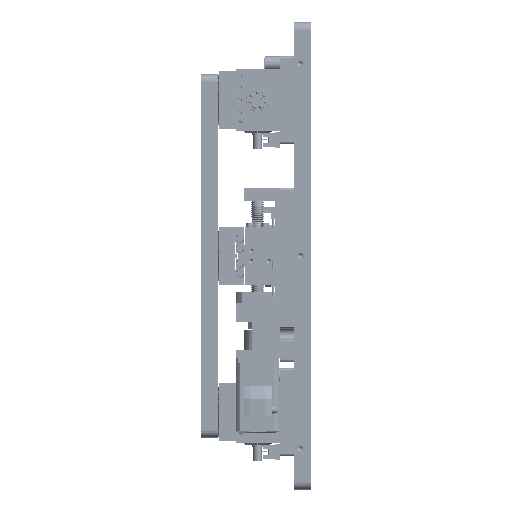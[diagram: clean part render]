
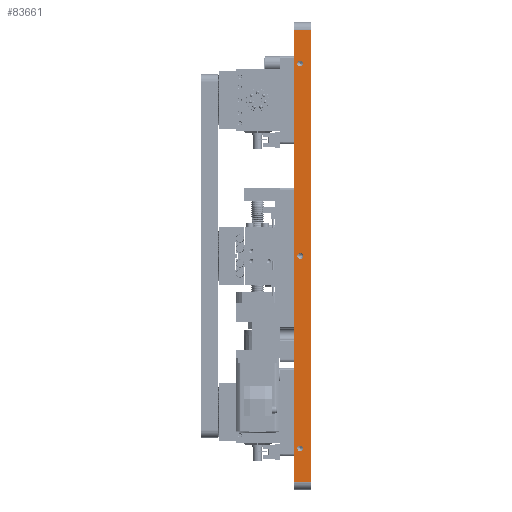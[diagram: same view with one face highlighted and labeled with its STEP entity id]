
A CAD part, left-side view. The second image highlights one B-rep face of the part: STEP entity #83661.
In plain terms, the highlighted planar face has unit normal (1, 0, 0).
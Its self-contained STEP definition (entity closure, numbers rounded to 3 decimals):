
#2578 = ORIENTED_EDGE ( 'NONE', *, *, #196876, .T. ) ;
#3567 = EDGE_LOOP ( 'NONE', ( #92168, #82711, #140599, #146072 ) ) ;
#9803 = VERTEX_POINT ( 'NONE', #264123 ) ;
#9864 = DIRECTION ( 'NONE',  ( 0., -1., 0. ) ) ;
#11326 = VERTEX_POINT ( 'NONE', #142925 ) ;
#13846 = CARTESIAN_POINT ( 'NONE',  ( -225., 16., 217. ) ) ;
#18416 = CARTESIAN_POINT ( 'NONE',  ( -225., 10., 185. ) ) ;
#22432 = DIRECTION ( 'NONE',  ( 0., -1., 0. ) ) ;
#28668 = DIRECTION ( 'NONE',  ( 0., 1., 0. ) ) ;
#29504 = CIRCLE ( 'NONE', #64618, 2.75 ) ;
#30323 = VERTEX_POINT ( 'NONE', #198304 ) ;
#30969 = DIRECTION ( 'NONE',  ( -1., 0., 0. ) ) ;
#31012 = AXIS2_PLACEMENT_3D ( 'NONE', #221004, #156450, #200425 ) ;
#35564 = LINE ( 'NONE', #142782, #54693 ) ;
#39070 = DIRECTION ( 'NONE',  ( -1., 0., 0. ) ) ;
#41155 = EDGE_CURVE ( 'NONE', #11326, #9803, #127709, .T. ) ;
#45826 = CARTESIAN_POINT ( 'NONE',  ( -225., 16., -217. ) ) ;
#51633 = CARTESIAN_POINT ( 'NONE',  ( -225., 10., -185. ) ) ;
#52117 = VERTEX_POINT ( 'NONE', #74495 ) ;
#54693 = VECTOR ( 'NONE', #138700, 1000. ) ;
#54915 = CARTESIAN_POINT ( 'NONE',  ( -225., 10., 0. ) ) ;
#64565 = CIRCLE ( 'NONE', #191973, 2.75 ) ;
#64618 = AXIS2_PLACEMENT_3D ( 'NONE', #114347, #99232, #9864 ) ;
#68161 = EDGE_LOOP ( 'NONE', ( #198285, #2578 ) ) ;
#68374 = CIRCLE ( 'NONE', #156117, 2.75 ) ;
#71638 = VERTEX_POINT ( 'NONE', #152616 ) ;
#74495 = CARTESIAN_POINT ( 'NONE',  ( -225., 12.75, 0. ) ) ;
#76797 = CARTESIAN_POINT ( 'NONE',  ( -225., 16., -217. ) ) ;
#80481 = AXIS2_PLACEMENT_3D ( 'NONE', #51633, #30969, #260493 ) ;
#82341 = EDGE_CURVE ( 'NONE', #52117, #30323, #29504, .T. ) ;
#82711 = ORIENTED_EDGE ( 'NONE', *, *, #84779, .F. ) ;
#83661 = ADVANCED_FACE ( 'NONE', ( #113945, #205962, #265072, #140046 ), #269097, .T. ) ;
#84779 = EDGE_CURVE ( 'NONE', #11326, #231029, #35564, .T. ) ;
#85936 = EDGE_CURVE ( 'NONE', #30323, #52117, #68374, .T. ) ;
#91308 = VECTOR ( 'NONE', #28668, 1000. ) ;
#91894 = CARTESIAN_POINT ( 'NONE',  ( -225., 16., -217. ) ) ;
#92168 = ORIENTED_EDGE ( 'NONE', *, *, #218970, .T. ) ;
#99232 = DIRECTION ( 'NONE',  ( -1., 0., 0. ) ) ;
#108044 = ORIENTED_EDGE ( 'NONE', *, *, #158134, .T. ) ;
#113945 = FACE_OUTER_BOUND ( 'NONE', #3567, .T. ) ;
#114347 = CARTESIAN_POINT ( 'NONE',  ( -225., 10., 0. ) ) ;
#115593 = LINE ( 'NONE', #13846, #147514 ) ;
#126983 = DIRECTION ( 'NONE',  ( 0., -1., 0. ) ) ;
#127709 = LINE ( 'NONE', #91894, #91308 ) ;
#129679 = DIRECTION ( 'NONE',  ( 0., 0., 1. ) ) ;
#138258 = AXIS2_PLACEMENT_3D ( 'NONE', #18416, #39070, #126983 ) ;
#138663 = DIRECTION ( 'NONE',  ( 0., 0., -1. ) ) ;
#138700 = DIRECTION ( 'NONE',  ( 0., 0., 1. ) ) ;
#140046 = FACE_BOUND ( 'NONE', #68161, .T. ) ;
#140599 = ORIENTED_EDGE ( 'NONE', *, *, #41155, .T. ) ;
#142782 = CARTESIAN_POINT ( 'NONE',  ( -225., 0., 217. ) ) ;
#142925 = CARTESIAN_POINT ( 'NONE',  ( -225., 0., -217. ) ) ;
#146072 = ORIENTED_EDGE ( 'NONE', *, *, #164018, .T. ) ;
#147163 = CARTESIAN_POINT ( 'NONE',  ( -225., 12.75, -185. ) ) ;
#147514 = VECTOR ( 'NONE', #202212, 1000. ) ;
#152532 = CARTESIAN_POINT ( 'NONE',  ( -225., 16., 217. ) ) ;
#152616 = CARTESIAN_POINT ( 'NONE',  ( -225., 7.25, 185. ) ) ;
#153215 = VERTEX_POINT ( 'NONE', #170559 ) ;
#156117 = AXIS2_PLACEMENT_3D ( 'NONE', #54915, #184103, #247247 ) ;
#156450 = DIRECTION ( 'NONE',  ( -1., 0., 0. ) ) ;
#158134 = EDGE_CURVE ( 'NONE', #174016, #210227, #199029, .T. ) ;
#160255 = CIRCLE ( 'NONE', #138258, 2.75 ) ;
#164018 = EDGE_CURVE ( 'NONE', #9803, #193057, #234120, .T. ) ;
#166029 = EDGE_CURVE ( 'NONE', #71638, #153215, #160255, .T. ) ;
#166092 = ORIENTED_EDGE ( 'NONE', *, *, #231911, .T. ) ;
#168170 = DIRECTION ( 'NONE',  ( -1., 0., 0. ) ) ;
#170559 = CARTESIAN_POINT ( 'NONE',  ( -225., 12.75, 185. ) ) ;
#174016 = VERTEX_POINT ( 'NONE', #147163 ) ;
#184103 = DIRECTION ( 'NONE',  ( -1., 0., 0. ) ) ;
#191973 = AXIS2_PLACEMENT_3D ( 'NONE', #232730, #168170, #22432 ) ;
#193057 = VERTEX_POINT ( 'NONE', #152532 ) ;
#195170 = EDGE_LOOP ( 'NONE', ( #248064, #233996 ) ) ;
#196876 = EDGE_CURVE ( 'NONE', #153215, #71638, #232888, .T. ) ;
#198285 = ORIENTED_EDGE ( 'NONE', *, *, #166029, .T. ) ;
#198304 = CARTESIAN_POINT ( 'NONE',  ( -225., 7.25, 0. ) ) ;
#199029 = CIRCLE ( 'NONE', #80481, 2.75 ) ;
#200425 = DIRECTION ( 'NONE',  ( 0., -1., 0. ) ) ;
#202212 = DIRECTION ( 'NONE',  ( 0., -1., 0. ) ) ;
#204786 = CARTESIAN_POINT ( 'NONE',  ( -225., 0., 217. ) ) ;
#205962 = FACE_BOUND ( 'NONE', #260052, .T. ) ;
#210227 = VERTEX_POINT ( 'NONE', #256642 ) ;
#218970 = EDGE_CURVE ( 'NONE', #193057, #231029, #115593, .T. ) ;
#221004 = CARTESIAN_POINT ( 'NONE',  ( -225., 10., 185. ) ) ;
#226568 = DIRECTION ( 'NONE',  ( 1., 0., 0. ) ) ;
#229642 = AXIS2_PLACEMENT_3D ( 'NONE', #76797, #226568, #138663 ) ;
#231029 = VERTEX_POINT ( 'NONE', #204786 ) ;
#231911 = EDGE_CURVE ( 'NONE', #210227, #174016, #64565, .T. ) ;
#232730 = CARTESIAN_POINT ( 'NONE',  ( -225., 10., -185. ) ) ;
#232888 = CIRCLE ( 'NONE', #31012, 2.75 ) ;
#233996 = ORIENTED_EDGE ( 'NONE', *, *, #82341, .T. ) ;
#234120 = LINE ( 'NONE', #45826, #270461 ) ;
#247247 = DIRECTION ( 'NONE',  ( 0., -1., 0. ) ) ;
#248064 = ORIENTED_EDGE ( 'NONE', *, *, #85936, .T. ) ;
#256642 = CARTESIAN_POINT ( 'NONE',  ( -225., 7.25, -185. ) ) ;
#260052 = EDGE_LOOP ( 'NONE', ( #166092, #108044 ) ) ;
#260493 = DIRECTION ( 'NONE',  ( 0., -1., 0. ) ) ;
#264123 = CARTESIAN_POINT ( 'NONE',  ( -225., 16., -217. ) ) ;
#265072 = FACE_BOUND ( 'NONE', #195170, .T. ) ;
#269097 = PLANE ( 'NONE',  #229642 ) ;
#270461 = VECTOR ( 'NONE', #129679, 1000. ) ;
